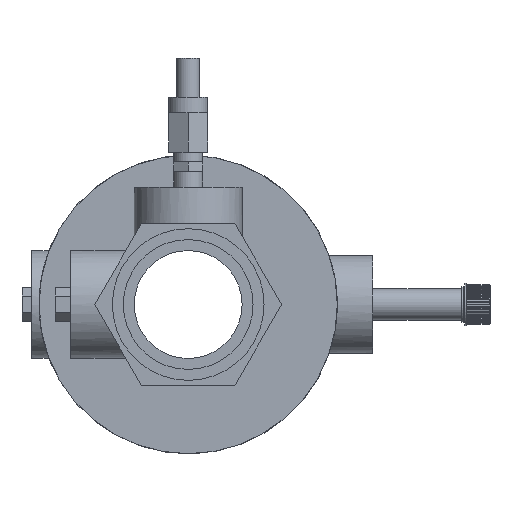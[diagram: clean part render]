
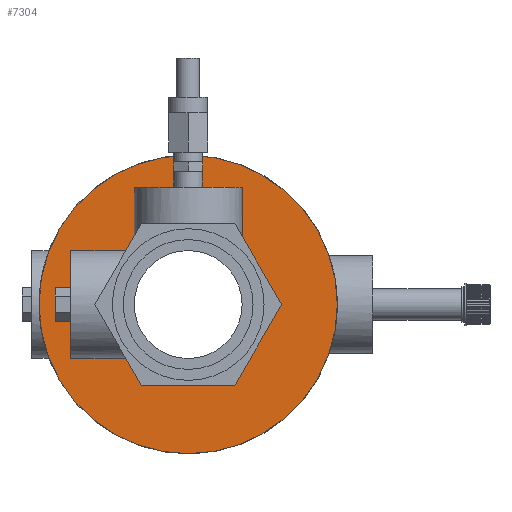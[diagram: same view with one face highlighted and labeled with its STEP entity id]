
A CAD part, left-side view. The second image highlights one B-rep face of the part: STEP entity #7304.
In plain terms, the highlighted planar face has unit normal (-1, 0, 0).
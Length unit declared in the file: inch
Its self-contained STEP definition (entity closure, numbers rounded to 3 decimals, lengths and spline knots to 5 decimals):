
#205=FACE_BOUND('',#1325,.T.);
#250=CIRCLE('',#7523,1.90738);
#251=CIRCLE('',#7524,1.90738);
#258=CIRCLE('',#7537,0.9849);
#260=CIRCLE('',#7539,0.9849);
#261=CIRCLE('',#7540,0.9849);
#941=FACE_OUTER_BOUND('',#1324,.T.);
#1324=EDGE_LOOP('',(#5881,#5882));
#1325=EDGE_LOOP('',(#5883,#5884,#5885,#5886,#5887,#5888,#5889,#5890,#5891));
#1568=LINE('',#10600,#2174);
#1574=LINE('',#10644,#2180);
#1575=LINE('',#10646,#2181);
#1581=LINE('',#10699,#2187);
#1584=LINE('',#10704,#2190);
#1585=LINE('',#10706,#2191);
#2174=VECTOR('',#8481,0.3937);
#2180=VECTOR('',#8493,0.3937);
#2181=VECTOR('',#8496,0.3937);
#2187=VECTOR('',#8518,0.3937);
#2190=VECTOR('',#8523,0.3937);
#2191=VECTOR('',#8526,0.3937);
#2746=VERTEX_POINT('',#10486);
#2754=VERTEX_POINT('',#10542);
#2761=VERTEX_POINT('',#10596);
#2763=VERTEX_POINT('',#10599);
#2767=VERTEX_POINT('',#10640);
#2768=VERTEX_POINT('',#10642);
#2769=VERTEX_POINT('',#10648);
#2771=VERTEX_POINT('',#10653);
#2774=VERTEX_POINT('',#10688);
#2777=VERTEX_POINT('',#10698);
#2778=VERTEX_POINT('',#10702);
#3503=EDGE_CURVE('',#2754,#2746,#250,.T.);
#3504=EDGE_CURVE('',#2746,#2754,#251,.T.);
#3514=EDGE_CURVE('',#2763,#2761,#1568,.T.);
#3522=EDGE_CURVE('',#2767,#2768,#1574,.T.);
#3523=EDGE_CURVE('',#2768,#2763,#1575,.T.);
#3524=EDGE_CURVE('',#2767,#2769,#258,.T.);
#3527=EDGE_CURVE('',#2769,#2771,#260,.T.);
#3531=EDGE_CURVE('',#2774,#2761,#261,.T.);
#3535=EDGE_CURVE('',#2777,#2771,#1581,.T.);
#3538=EDGE_CURVE('',#2774,#2778,#1584,.T.);
#3539=EDGE_CURVE('',#2778,#2777,#1585,.T.);
#5881=ORIENTED_EDGE('',*,*,#3503,.F.);
#5882=ORIENTED_EDGE('',*,*,#3504,.F.);
#5883=ORIENTED_EDGE('',*,*,#3523,.T.);
#5884=ORIENTED_EDGE('',*,*,#3514,.T.);
#5885=ORIENTED_EDGE('',*,*,#3531,.F.);
#5886=ORIENTED_EDGE('',*,*,#3538,.T.);
#5887=ORIENTED_EDGE('',*,*,#3539,.T.);
#5888=ORIENTED_EDGE('',*,*,#3535,.T.);
#5889=ORIENTED_EDGE('',*,*,#3527,.F.);
#5890=ORIENTED_EDGE('',*,*,#3524,.F.);
#5891=ORIENTED_EDGE('',*,*,#3522,.T.);
#6609=PLANE('',#7931);
#7304=ADVANCED_FACE('',(#941,#205),#6609,.T.);
#7523=AXIS2_PLACEMENT_3D('',#10561,#8460,#8461);
#7524=AXIS2_PLACEMENT_3D('',#10562,#8462,#8463);
#7537=AXIS2_PLACEMENT_3D('',#10649,#8499,#8500);
#7539=AXIS2_PLACEMENT_3D('',#10654,#8504,#8505);
#7540=AXIS2_PLACEMENT_3D('',#10690,#8508,#8509);
#7931=AXIS2_PLACEMENT_3D('',#12474,#9601,#9602);
#8460=DIRECTION('center_axis',(1.,0.,0.));
#8461=DIRECTION('ref_axis',(0.,0.,-1.));
#8462=DIRECTION('center_axis',(1.,0.,0.));
#8463=DIRECTION('ref_axis',(0.,0.,-1.));
#8481=DIRECTION('',(0.,-1.,0.));
#8493=DIRECTION('',(0.,1.,0.));
#8496=DIRECTION('',(0.,0.,1.));
#8499=DIRECTION('center_axis',(-1.,0.,0.));
#8500=DIRECTION('ref_axis',(0.,0.,1.));
#8504=DIRECTION('center_axis',(-1.,0.,0.));
#8505=DIRECTION('ref_axis',(0.,0.,1.));
#8508=DIRECTION('center_axis',(-1.,0.,0.));
#8509=DIRECTION('ref_axis',(0.,0.,1.));
#8518=DIRECTION('',(0.,0.,-1.));
#8523=DIRECTION('',(0.,0.,1.));
#8526=DIRECTION('',(0.,-1.,0.));
#9601=DIRECTION('center_axis',(-1.,0.,0.));
#9602=DIRECTION('ref_axis',(0.,0.,1.));
#10486=CARTESIAN_POINT('',(-1.16,1.90738,0.));
#10542=CARTESIAN_POINT('',(-1.16,-1.90738,0.));
#10561=CARTESIAN_POINT('Origin',(-1.16,0.,0.));
#10562=CARTESIAN_POINT('Origin',(-1.16,0.,0.));
#10596=CARTESIAN_POINT('',(-1.16,0.7028,0.69));
#10599=CARTESIAN_POINT('',(-1.16,1.5,0.69));
#10600=CARTESIAN_POINT('',(-1.16,0.95369,0.69));
#10640=CARTESIAN_POINT('',(-1.16,0.7028,-0.69));
#10642=CARTESIAN_POINT('',(-1.16,1.5,-0.69));
#10644=CARTESIAN_POINT('',(-1.16,0.95369,-0.69));
#10646=CARTESIAN_POINT('',(-1.16,1.5,0.));
#10648=CARTESIAN_POINT('',(-1.16,0.,-0.9849));
#10649=CARTESIAN_POINT('Origin',(-1.16,0.,0.));
#10653=CARTESIAN_POINT('',(-1.16,-0.69,0.7028));
#10654=CARTESIAN_POINT('Origin',(-1.16,0.,0.));
#10688=CARTESIAN_POINT('',(-1.16,0.69,0.7028));
#10690=CARTESIAN_POINT('Origin',(-1.16,0.,0.));
#10698=CARTESIAN_POINT('',(-1.16,-0.69,1.5));
#10699=CARTESIAN_POINT('',(-1.16,-0.69,0.));
#10702=CARTESIAN_POINT('',(-1.16,0.69,1.5));
#10704=CARTESIAN_POINT('',(-1.16,0.69,0.));
#10706=CARTESIAN_POINT('',(-1.16,0.95369,1.5));
#12474=CARTESIAN_POINT('Origin',(-1.16,1.90738,0.));
